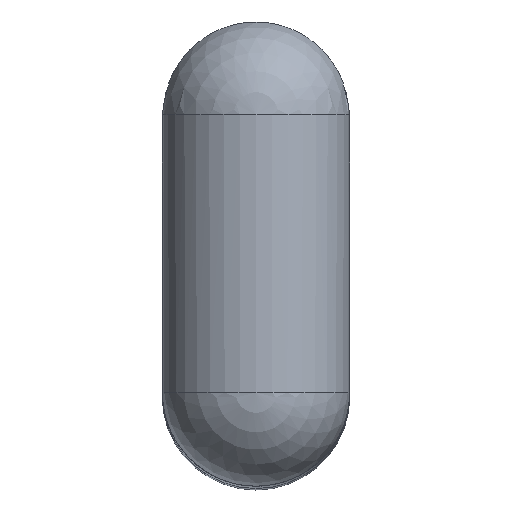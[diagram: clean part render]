
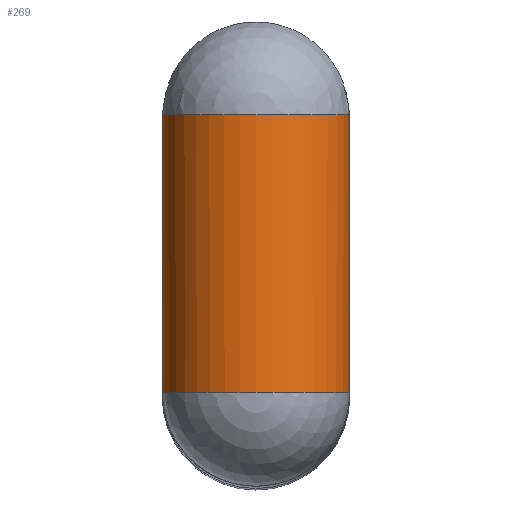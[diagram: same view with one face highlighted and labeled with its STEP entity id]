
A CAD part, top view. The second image highlights one B-rep face of the part: STEP entity #269.
In plain terms, the highlighted cylindrical face has radius 1.711 mm (diameter 3.421 mm), a full revolution.
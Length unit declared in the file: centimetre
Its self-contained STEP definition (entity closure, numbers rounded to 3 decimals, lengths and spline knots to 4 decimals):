
#146=ELLIPSE('',#691,0.2419,0.1711);
#147=ELLIPSE('',#692,0.2419,0.1711);
#148=ELLIPSE('',#693,0.2419,0.1711);
#149=CYLINDRICAL_SURFACE('',#690,0.1711);
#155=VERTEX_POINT('',#1023);
#156=VERTEX_POINT('',#1026);
#157=VERTEX_POINT('',#1027);
#158=VERTEX_POINT('',#1029);
#159=VERTEX_POINT('',#1031);
#160=VERTEX_POINT('',#1033);
#161=VERTEX_POINT('',#1035);
#162=VERTEX_POINT('',#1037);
#171=EDGE_CURVE('',#155,#155,#511,.T.);
#172=EDGE_CURVE('',#156,#157,#314,.T.);
#173=EDGE_CURVE('',#158,#156,#146,.T.);
#174=EDGE_CURVE('',#159,#158,#147,.T.);
#175=EDGE_CURVE('',#160,#159,#148,.T.);
#176=EDGE_CURVE('',#161,#160,#315,.T.);
#177=EDGE_CURVE('',#161,#162,#512,.T.);
#178=EDGE_CURVE('',#157,#162,#513,.T.);
#194=ORIENTED_EDGE('',*,*,#171,.T.);
#195=ORIENTED_EDGE('',*,*,#172,.F.);
#196=ORIENTED_EDGE('',*,*,#173,.F.);
#197=ORIENTED_EDGE('',*,*,#174,.F.);
#198=ORIENTED_EDGE('',*,*,#175,.F.);
#199=ORIENTED_EDGE('',*,*,#176,.F.);
#200=ORIENTED_EDGE('',*,*,#177,.T.);
#201=ORIENTED_EDGE('',*,*,#178,.F.);
#237=EDGE_LOOP('',(#194));
#238=EDGE_LOOP('',(#195,#196,#197,#198,#199,#200,#201));
#253=FACE_BOUND('',#237,.T.);
#254=FACE_BOUND('',#238,.T.);
#269=ADVANCED_FACE('',(#253,#254),#149,.T.);
#314=LINE('',#1025,#737);
#315=LINE('',#1034,#738);
#511=CIRCLE('',#689,0.1711);
#512=CIRCLE('',#694,0.1711);
#513=CIRCLE('',#695,0.1711);
#689=AXIS2_PLACEMENT_3D('',#1022,#882,#883);
#690=AXIS2_PLACEMENT_3D('',#1024,#884,#885);
#691=AXIS2_PLACEMENT_3D('',#1028,#887,#888);
#692=AXIS2_PLACEMENT_3D('',#1030,#889,#890);
#693=AXIS2_PLACEMENT_3D('',#1032,#891,#892);
#694=AXIS2_PLACEMENT_3D('',#1036,#894,#895);
#695=AXIS2_PLACEMENT_3D('',#1038,#896,#897);
#737=VECTOR('',#886,1.);
#738=VECTOR('',#893,1.);
#882=DIRECTION('',(0.,-1.,0.));
#883=DIRECTION('',(0.171,0.,0.));
#884=DIRECTION('',(0.,1.,0.));
#885=DIRECTION('',(0.171,0.,0.));
#886=DIRECTION('',(0.,-1.,0.));
#887=DIRECTION('',(0.,-0.707,0.707));
#888=DIRECTION('',(0.,-0.171,-0.171));
#889=DIRECTION('',(0.,-0.707,-0.707));
#890=DIRECTION('',(0.,0.171,-0.171));
#891=DIRECTION('',(0.,-0.707,0.707));
#892=DIRECTION('',(0.,-0.171,-0.171));
#893=DIRECTION('',(0.,1.,0.));
#894=DIRECTION('',(0.,1.,0.));
#895=DIRECTION('',(0.171,0.,0.));
#896=DIRECTION('',(0.,-1.,0.));
#897=DIRECTION('',(-0.171,0.,0.));
#1022=CARTESIAN_POINT('',(0.,0.508,3.683));
#1023=CARTESIAN_POINT('',(0.1711,0.508,3.683));
#1024=CARTESIAN_POINT('',(0.,0.,3.683));
#1025=CARTESIAN_POINT('',(0.171,0.0855,3.6881));
#1026=CARTESIAN_POINT('',(0.171,0.0051,3.6881));
#1027=CARTESIAN_POINT('',(0.171,0.,3.6881));
#1028=CARTESIAN_POINT('',(0.,0.,3.683));
#1029=CARTESIAN_POINT('',(0.1711,0.,3.683));
#1030=CARTESIAN_POINT('',(0.,0.,3.683));
#1031=CARTESIAN_POINT('',(-0.1711,0.,3.683));
#1032=CARTESIAN_POINT('',(0.,0.,3.683));
#1033=CARTESIAN_POINT('',(-0.171,0.0051,3.6881));
#1034=CARTESIAN_POINT('',(-0.171,0.0855,3.6881));
#1035=CARTESIAN_POINT('',(-0.171,0.,3.6881));
#1036=CARTESIAN_POINT('',(0.,0.,3.683));
#1037=CARTESIAN_POINT('',(0.,0.,3.8541));
#1038=CARTESIAN_POINT('',(0.,0.,
3.683));
